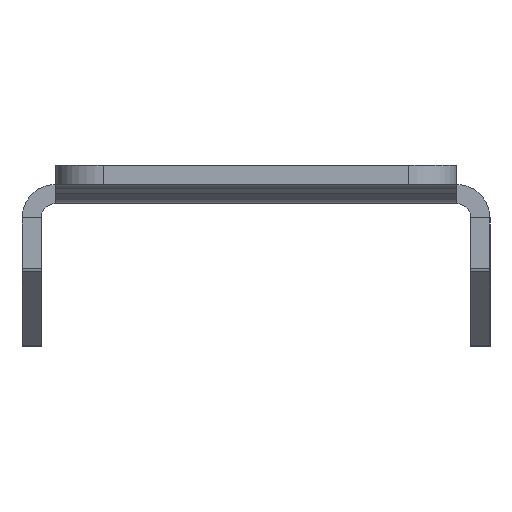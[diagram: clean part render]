
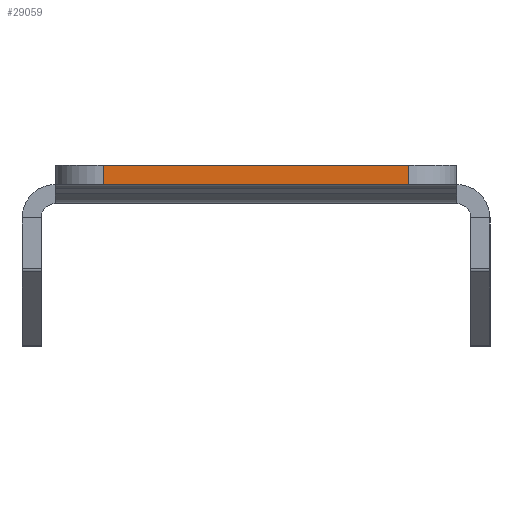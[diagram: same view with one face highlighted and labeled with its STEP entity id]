
A CAD part, left-side view. The second image highlights one B-rep face of the part: STEP entity #29059.
In plain terms, the highlighted planar face has unit normal (-1, 0, 0).
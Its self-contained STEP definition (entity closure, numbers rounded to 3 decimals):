
#908 = VERTEX_POINT ( 'NONE', #3639 ) ;
#2351 = CARTESIAN_POINT ( 'NONE',  ( -276.002, 21., 9.531 ) ) ;
#3639 = CARTESIAN_POINT ( 'NONE',  ( -276.002, -16., 7.531 ) ) ;
#4627 = FACE_OUTER_BOUND ( 'NONE', #17081, .T. ) ;
#5000 = ORIENTED_EDGE ( 'NONE', *, *, #7490, .T. ) ;
#5601 = VECTOR ( 'NONE', #27893, 1000. ) ;
#5692 = VECTOR ( 'NONE', #25939, 1000. ) ;
#6522 = CARTESIAN_POINT ( 'NONE',  ( -276.002, 16., 9.531 ) ) ;
#6990 = LINE ( 'NONE', #18034, #28834 ) ;
#7490 = EDGE_CURVE ( 'NONE', #908, #18798, #6990, .T. ) ;
#8292 = EDGE_CURVE ( 'NONE', #908, #27838, #21250, .T. ) ;
#9683 = AXIS2_PLACEMENT_3D ( 'NONE', #2351, #20772, #10502 ) ;
#9923 = DIRECTION ( 'NONE',  ( 0., 1., 0. ) ) ;
#10502 = DIRECTION ( 'NONE',  ( 0., 0., 1. ) ) ;
#11914 = EDGE_CURVE ( 'NONE', #18798, #28473, #14317, .T. ) ;
#12067 = ORIENTED_EDGE ( 'NONE', *, *, #8292, .F. ) ;
#13835 = PLANE ( 'NONE',  #9683 ) ;
#14317 = LINE ( 'NONE', #23532, #17889 ) ;
#14581 = EDGE_CURVE ( 'NONE', #28473, #27838, #21076, .T. ) ;
#15904 = ORIENTED_EDGE ( 'NONE', *, *, #11914, .T. ) ;
#17081 = EDGE_LOOP ( 'NONE', ( #12067, #5000, #15904, #27811 ) ) ;
#17889 = VECTOR ( 'NONE', #9923, 1000. ) ;
#18034 = CARTESIAN_POINT ( 'NONE',  ( -276.002, -16., 9.531 ) ) ;
#18321 = DIRECTION ( 'NONE',  ( 0., 0., 1. ) ) ;
#18667 = CARTESIAN_POINT ( 'NONE',  ( -276.002, 16., 9.531 ) ) ;
#18798 = VERTEX_POINT ( 'NONE', #26903 ) ;
#19094 = CARTESIAN_POINT ( 'NONE',  ( -276.002, 16., 7.531 ) ) ;
#20772 = DIRECTION ( 'NONE',  ( -1., 0., 0. ) ) ;
#21076 = LINE ( 'NONE', #18667, #5601 ) ;
#21250 = LINE ( 'NONE', #28057, #5692 ) ;
#23532 = CARTESIAN_POINT ( 'NONE',  ( -276.002, 21., 9.531 ) ) ;
#25939 = DIRECTION ( 'NONE',  ( 0., 1., 0. ) ) ;
#26903 = CARTESIAN_POINT ( 'NONE',  ( -276.002, -16., 9.531 ) ) ;
#27811 = ORIENTED_EDGE ( 'NONE', *, *, #14581, .T. ) ;
#27838 = VERTEX_POINT ( 'NONE', #19094 ) ;
#27893 = DIRECTION ( 'NONE',  ( 0., 0., -1. ) ) ;
#28057 = CARTESIAN_POINT ( 'NONE',  ( -276.002, 0., 7.531 ) ) ;
#28473 = VERTEX_POINT ( 'NONE', #6522 ) ;
#28834 = VECTOR ( 'NONE', #18321, 1000. ) ;
#29059 = ADVANCED_FACE ( 'NONE', ( #4627 ), #13835, .T. ) ;
